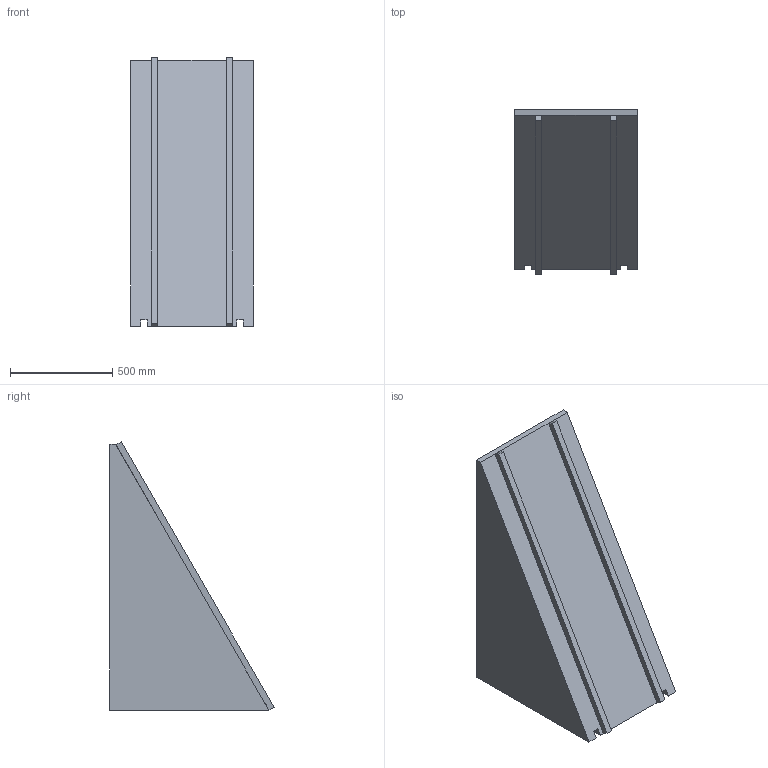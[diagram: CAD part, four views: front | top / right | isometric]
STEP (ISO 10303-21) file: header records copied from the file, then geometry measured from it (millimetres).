
FILE_DESCRIPTION(('CATIA V5 STEP Exchange'),'2;1');
FILE_NAME('D:\Clients_NCS8\Cenit-AG\Import\OKUMA250\Y1.stp','2005-03-09T16:52:28+00:00',('none'),('none'),'CATIA Version 5 Release 14 (IN-10)','CATIA V5 STEP AP203','none');
FILE_SCHEMA(('CONFIG_CONTROL_DESIGN'));
Length unit declared in the file: millimetre
Products named in the file (1): okuma_dr-fr
Assembly tree (1 placements, depth 2):
  okuma_dr-fr
    #56
Bounding box: 600 x 804.98 x 1312.31 mm (x, y, z)
Volume: 316213202 mm3; surface area: 3665454.3 mm2
Topology: 3 solids, 3 shells, 26 faces, 60 edges, 40 vertices
Faces by surface type: plane 26
Entity records: 749 total; most frequent: CARTESIAN_POINT 121, ORIENTED_EDGE 120, DIRECTION 102, VECTOR 60, EDGE_CURVE 60, LINE 60, VERTEX_POINT 40, ADVANCED_FACE 26
